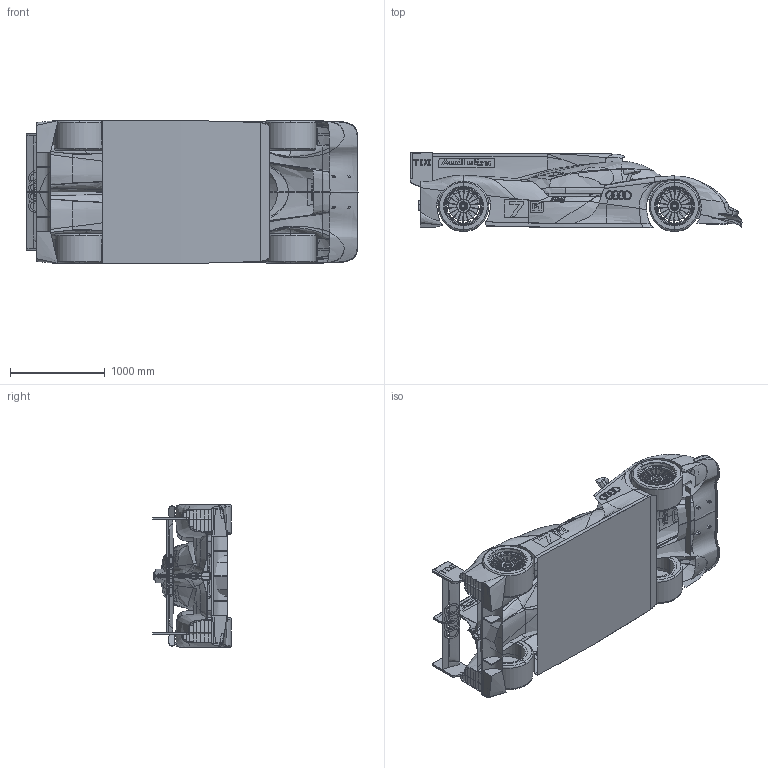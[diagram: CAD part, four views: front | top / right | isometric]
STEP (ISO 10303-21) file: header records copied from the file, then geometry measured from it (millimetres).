
FILE_DESCRIPTION (( 'STEP AP203' ), '1' );
FILE_NAME ('audi r18.STEP', '2014-09-13T12:09:08', ( '' ), ( '' ), 'SwSTEP 2.0', 'SolidWorks 2013', '' );
FILE_SCHEMA (( 'CONFIG_CONTROL_DESIGN' ));
Products named in the file (1): audi r18
Bounding box: 3495.48 x 830.84 x 1513.02 mm (x, y, z)
Surface area: 26254104.8 mm2 (no closed solid volume)
Topology: 0 solids, 266 shells, 1944 faces, 5842 edges, 4212 vertices
Faces by surface type: bspline 1272, cylinder 370, plane 238, torus 48, cone 16
Entity records: 217782 total; most frequent: CARTESIAN_POINT 176649, ORIENTED_EDGE 10232, EDGE_CURVE 5800, DIRECTION 4394, VERTEX_POINT 4212, B_SPLINE_CURVE_WITH_KNOTS 3736, EDGE_LOOP 2182, FACE_OUTER_BOUND 1944
